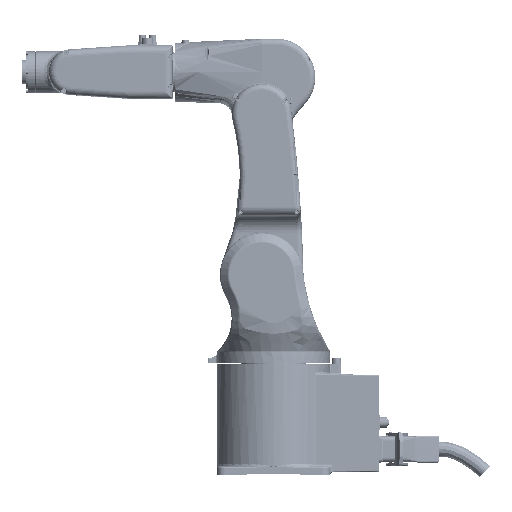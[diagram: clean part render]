
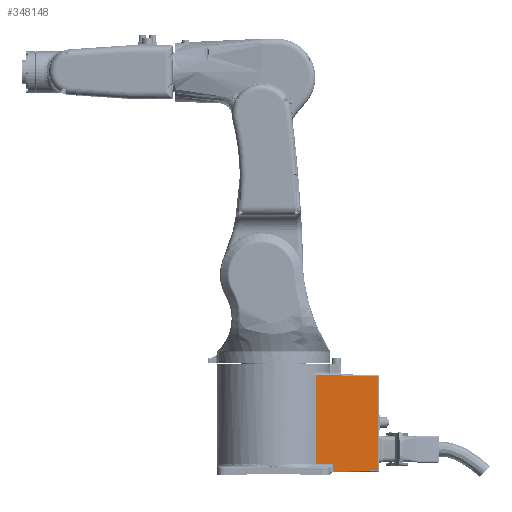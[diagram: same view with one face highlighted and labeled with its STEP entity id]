
A CAD part, top view. The second image highlights one B-rep face of the part: STEP entity #348148.
In plain terms, the highlighted planar face has unit normal (0.018, 0, 1) as drawn and (-0.017, 0, -1) by its records, which use the part's own axes.
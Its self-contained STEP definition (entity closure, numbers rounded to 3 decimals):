
#11400 = LINE ( 'NONE', #160541, #328686 ) ;
#33902 = AXIS2_PLACEMENT_3D ( 'NONE', #272235, #309065, #268947 ) ;
#39551 = ORIENTED_EDGE ( 'NONE', *, *, #351378, .T. ) ;
#43149 = LINE ( 'NONE', #67857, #438419 ) ;
#57367 = EDGE_CURVE ( 'NONE', #347246, #251994, #43149, .T. ) ;
#67857 = CARTESIAN_POINT ( 'NONE',  ( -175., -14., -62.535 ) ) ;
#89848 = VERTEX_POINT ( 'NONE', #420652 ) ;
#91091 = VERTEX_POINT ( 'NONE', #150683 ) ;
#93009 = VECTOR ( 'NONE', #321110, 1000. ) ;
#98714 = CARTESIAN_POINT ( 'NONE',  ( -98.93, -13.363, -63.863 ) ) ;
#105771 = DIRECTION ( 'NONE',  ( -1., 0.017, 0.017 ) ) ;
#108118 = LINE ( 'NONE', #204933, #401755 ) ;
#117033 = LINE ( 'NONE', #361306, #93009 ) ;
#123560 = VECTOR ( 'NONE', #105771, 1000. ) ;
#130211 = VERTEX_POINT ( 'NONE', #98714 ) ;
#149258 = EDGE_CURVE ( 'NONE', #474614, #89848, #11400, .T. ) ;
#150683 = CARTESIAN_POINT ( 'NONE',  ( -98.93, -2., -63.863 ) ) ;
#160541 = CARTESIAN_POINT ( 'NONE',  ( -71.559, -2., -64.34 ) ) ;
#176614 = EDGE_CURVE ( 'NONE', #89848, #91091, #117033, .T. ) ;
#177752 = CARTESIAN_POINT ( 'NONE',  ( -176.965, -12.001, -62.501 ) ) ;
#204933 = CARTESIAN_POINT ( 'NONE',  ( -98.93, -14., -63.863 ) ) ;
#226111 = EDGE_LOOP ( 'NONE', ( #276182, #461463, #39551, #405660, #468797, #433829 ) ) ;
#251994 = VERTEX_POINT ( 'NONE', #433327 ) ;
#256023 = LINE ( 'NONE', #370742, #357462 ) ;
#260767 = PLANE ( 'NONE',  #33902 ) ;
#263513 = DIRECTION ( 'NONE',  ( 0., 1., 0. ) ) ;
#268947 = DIRECTION ( 'NONE',  ( -1., 0., 0.017 ) ) ;
#271300 = FACE_OUTER_BOUND ( 'NONE', #226111, .T. ) ;
#272235 = CARTESIAN_POINT ( 'NONE',  ( -177., -14., -62.5 ) ) ;
#276182 = ORIENTED_EDGE ( 'NONE', *, *, #326941, .T. ) ;
#279247 = LINE ( 'NONE', #177752, #123560 ) ;
#283682 = CARTESIAN_POINT ( 'NONE',  ( -175., -12.035, -62.535 ) ) ;
#299304 = CARTESIAN_POINT ( 'NONE',  ( -71.559, 147.841, -64.34 ) ) ;
#309065 = DIRECTION ( 'NONE',  ( -0.017, 0., -1. ) ) ;
#321110 = DIRECTION ( 'NONE',  ( -1., 0., 0.017 ) ) ;
#326941 = EDGE_CURVE ( 'NONE', #130211, #347246, #279247, .T. ) ;
#328686 = VECTOR ( 'NONE', #353254, 1000. ) ;
#347246 = VERTEX_POINT ( 'NONE', #283682 ) ;
#348148 = ADVANCED_FACE ( 'NONE', ( #271300 ), #260767, .T. ) ;
#351378 = EDGE_CURVE ( 'NONE', #251994, #474614, #256023, .T. ) ;
#353254 = DIRECTION ( 'NONE',  ( 0., -1., 0. ) ) ;
#357462 = VECTOR ( 'NONE', #367469, 1000. ) ;
#361306 = CARTESIAN_POINT ( 'NONE',  ( -177., -2., -62.5 ) ) ;
#367469 = DIRECTION ( 'NONE',  ( 1., 0.017, -0.017 ) ) ;
#370742 = CARTESIAN_POINT ( 'NONE',  ( -179.791, 145.952, -62.451 ) ) ;
#401755 = VECTOR ( 'NONE', #402548, 1000. ) ;
#402548 = DIRECTION ( 'NONE',  ( 0., -1., 0. ) ) ;
#405660 = ORIENTED_EDGE ( 'NONE', *, *, #149258, .T. ) ;
#420652 = CARTESIAN_POINT ( 'NONE',  ( -71.559, -2., -64.34 ) ) ;
#433327 = CARTESIAN_POINT ( 'NONE',  ( -175., 146.035, -62.535 ) ) ;
#433829 = ORIENTED_EDGE ( 'NONE', *, *, #440372, .T. ) ;
#438419 = VECTOR ( 'NONE', #263513, 1000. ) ;
#440372 = EDGE_CURVE ( 'NONE', #91091, #130211, #108118, .T. ) ;
#461463 = ORIENTED_EDGE ( 'NONE', *, *, #57367, .T. ) ;
#468797 = ORIENTED_EDGE ( 'NONE', *, *, #176614, .T. ) ;
#474614 = VERTEX_POINT ( 'NONE', #299304 ) ;
